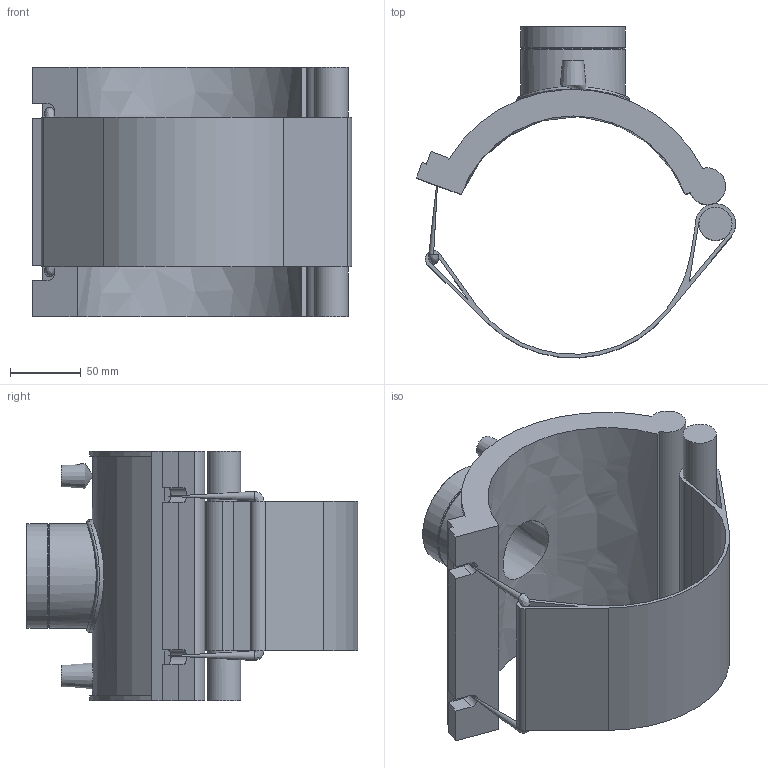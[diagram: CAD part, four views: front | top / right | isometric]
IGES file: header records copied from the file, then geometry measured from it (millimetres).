
Global section: file name: 5938B00306055.ipt; native system: Autodesk Inventor 2019; preprocessor: unknown; author: KIM; date: 20210830.101059; units: inch
Bounding box: 225.14 x 233.93 x 176.02 mm (x, y, z)
Volume: 1069669.1 mm3; surface area: 231164.3 mm2
Topology: 2 solids, 3 shells, 78 faces, 192 edges, 126 vertices
Faces by surface type: plane 42, cylinder 19, revolution 11, cone 5, bspline 1
Full cylindrical faces by diameter (mm): 4 x2, 6.72 x2, 23.391 x1, 72.653 x1, 73.653 x2, 79.318 x1
